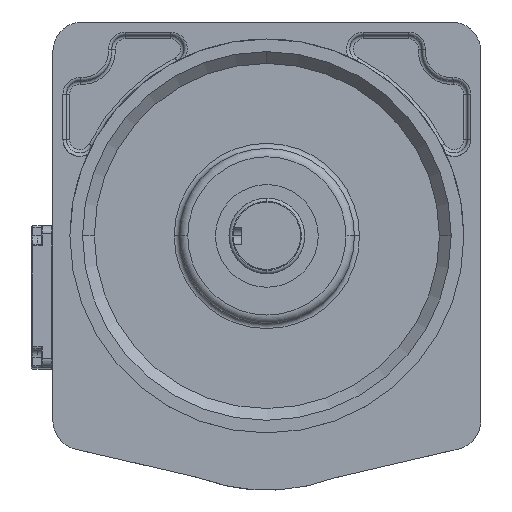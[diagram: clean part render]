
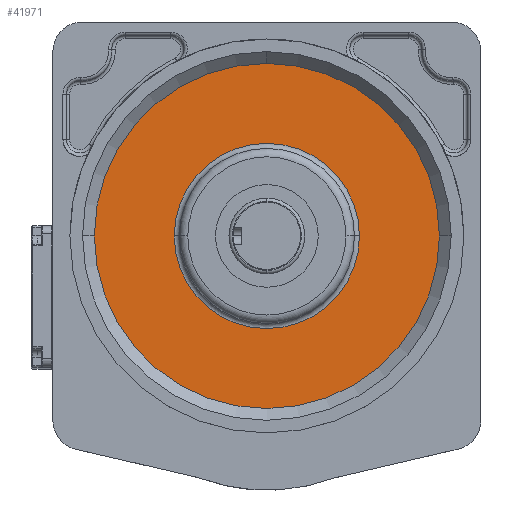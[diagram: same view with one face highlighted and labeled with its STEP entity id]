
A CAD part, top view. The second image highlights one B-rep face of the part: STEP entity #41971.
In plain terms, the highlighted planar face has unit normal (0, 0, 1) as drawn and (0, 1, 0) by its records, which use the part's own axes.
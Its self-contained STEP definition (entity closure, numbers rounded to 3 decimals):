
#4686 = ORIENTED_EDGE ( 'NONE', *, *, #70917, .F. ) ;
#7606 = DIRECTION ( 'NONE',  ( 0., 1., 0. ) ) ;
#8497 = DIRECTION ( 'NONE',  ( 0., -1., 0. ) ) ;
#9667 = CIRCLE ( 'NONE', #100171, 55. ) ;
#12780 = VERTEX_POINT ( 'NONE', #58031 ) ;
#13155 = DIRECTION ( 'NONE',  ( 0., 0., 1. ) ) ;
#18773 = CIRCLE ( 'NONE', #109261, 102.5 ) ;
#19765 = FACE_BOUND ( 'NONE', #41226, .T. ) ;
#26942 = CIRCLE ( 'NONE', #117422, 102.5 ) ;
#31126 = ORIENTED_EDGE ( 'NONE', *, *, #92743, .F. ) ;
#32697 = VERTEX_POINT ( 'NONE', #137833 ) ;
#36742 = CARTESIAN_POINT ( 'NONE',  ( 102.5, 139.5, -36. ) ) ;
#41226 = EDGE_LOOP ( 'NONE', ( #44803, #89223 ) ) ;
#41971 = ADVANCED_FACE ( 'NONE', ( #130669, #19765 ), #69196, .T. ) ;
#44799 = DIRECTION ( 'NONE',  ( 1., 0., 0. ) ) ;
#44803 = ORIENTED_EDGE ( 'NONE', *, *, #90040, .T. ) ;
#50087 = CIRCLE ( 'NONE', #140533, 55. ) ;
#53045 = CARTESIAN_POINT ( 'NONE',  ( -102.5, 139.5, -36. ) ) ;
#56157 = DIRECTION ( 'NONE',  ( 0., 1., 0. ) ) ;
#57019 = DIRECTION ( 'NONE',  ( 1., 0., 0. ) ) ;
#57921 = DIRECTION ( 'NONE',  ( 0., 0., -1. ) ) ;
#58031 = CARTESIAN_POINT ( 'NONE',  ( -55., 139.5, -35.986 ) ) ;
#59977 = CARTESIAN_POINT ( 'NONE',  ( 0., 139.5, -36. ) ) ;
#61482 = EDGE_CURVE ( 'NONE', #85583, #121518, #135822, .T. ) ;
#69196 = PLANE ( 'NONE',  #75334 ) ;
#70917 = EDGE_CURVE ( 'NONE', #95675, #85583, #18773, .T. ) ;
#74731 = CARTESIAN_POINT ( 'NONE',  ( 0., 139.5, -36. ) ) ;
#75334 = AXIS2_PLACEMENT_3D ( 'NONE', #118513, #7606, #57019 ) ;
#85583 = VERTEX_POINT ( 'NONE', #151427 ) ;
#89223 = ORIENTED_EDGE ( 'NONE', *, *, #100252, .F. ) ;
#90040 = EDGE_CURVE ( 'NONE', #32697, #12780, #50087, .T. ) ;
#92037 = ORIENTED_EDGE ( 'NONE', *, *, #61482, .F. ) ;
#92743 = EDGE_CURVE ( 'NONE', #121518, #95675, #26942, .T. ) ;
#95675 = VERTEX_POINT ( 'NONE', #53045 ) ;
#100171 = AXIS2_PLACEMENT_3D ( 'NONE', #129772, #56157, #105510 ) ;
#100252 = EDGE_CURVE ( 'NONE', #32697, #12780, #9667, .T. ) ;
#105510 = DIRECTION ( 'NONE',  ( 1., 0., 0. ) ) ;
#106283 = CARTESIAN_POINT ( 'NONE',  ( 0., 139.5, -36. ) ) ;
#109261 = AXIS2_PLACEMENT_3D ( 'NONE', #119379, #8497, #57921 ) ;
#109307 = DIRECTION ( 'NONE',  ( 0., -1., 0. ) ) ;
#117422 = AXIS2_PLACEMENT_3D ( 'NONE', #74731, #124046, #13155 ) ;
#118513 = CARTESIAN_POINT ( 'NONE',  ( 0., 139.5, -36. ) ) ;
#119379 = CARTESIAN_POINT ( 'NONE',  ( 0., 139.5, -36. ) ) ;
#121518 = VERTEX_POINT ( 'NONE', #36742 ) ;
#124046 = DIRECTION ( 'NONE',  ( 0., -1., 0. ) ) ;
#129772 = CARTESIAN_POINT ( 'NONE',  ( 0., 139.5, -36. ) ) ;
#130669 = FACE_OUTER_BOUND ( 'NONE', #138872, .T. ) ;
#135822 = CIRCLE ( 'NONE', #156516, 102.5 ) ;
#137833 = CARTESIAN_POINT ( 'NONE',  ( 55., 139.5, -36.014 ) ) ;
#138872 = EDGE_LOOP ( 'NONE', ( #4686, #31126, #92037 ) ) ;
#140533 = AXIS2_PLACEMENT_3D ( 'NONE', #106283, #155659, #44799 ) ;
#151427 = CARTESIAN_POINT ( 'NONE',  ( 0., 139.5, -138.5 ) ) ;
#155659 = DIRECTION ( 'NONE',  ( 0., -1., 0. ) ) ;
#156516 = AXIS2_PLACEMENT_3D ( 'NONE', #59977, #109307, #158679 ) ;
#158679 = DIRECTION ( 'NONE',  ( 0., 0., -1. ) ) ;
